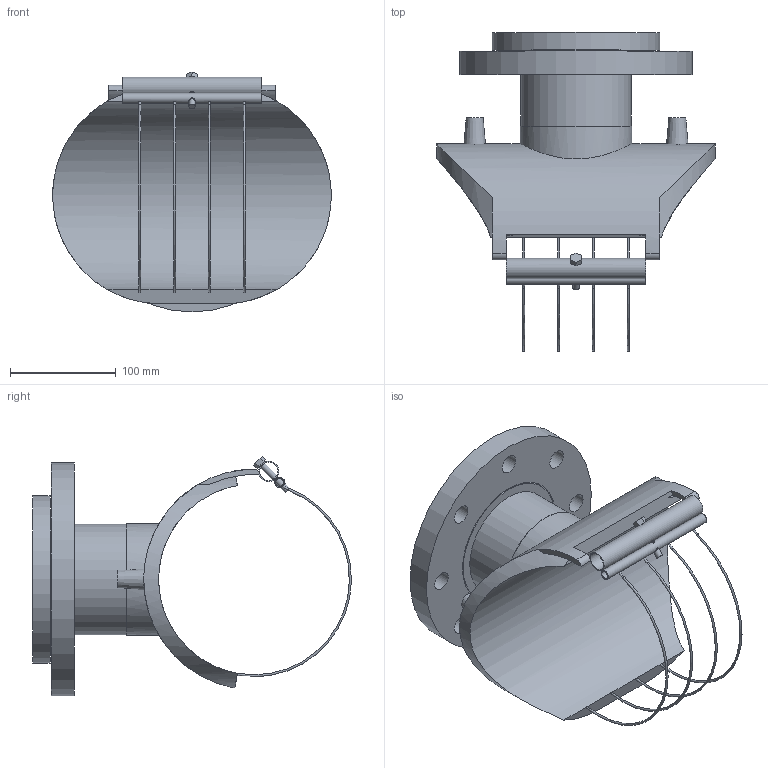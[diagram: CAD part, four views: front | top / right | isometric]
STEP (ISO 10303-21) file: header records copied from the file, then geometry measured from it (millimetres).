
FILE_DESCRIPTION(/* description */ ('Plasson Flanged Branch Saddle 180x100'),/* implementation_level */ '2;1');
FILE_NAME(/* name */ 'C:\Dropbox\99-16-3568-Processing\ElectroFusion Fittings\4959X4\stp\4959X4180100T.stp',/* time_stamp */ '2022-04-28T11:37:21+03:00',/* author */ ('KIM'),/* organization */ (''),/* preprocessor_version */ 'ST-DEVELOPER v17.2',/* originating_system */ 'Autodesk Inventor 2019',/* authorisation */ '');
FILE_SCHEMA (('AUTOMOTIVE_DESIGN { 1 0 10303 214 3 1 1 }'));
Length unit declared in the file: millimetre
Products named in the file (1): 4959X4180100T
Bounding box: 263 x 300.99 x 226.44 mm (x, y, z)
Volume: 1922336.3 mm3; surface area: 344234.5 mm2
Topology: 2 solids, 2 shells, 79 faces, 243 edges, 168 vertices
Faces by surface type: cylinder 40, plane 29, torus 8, cone 2
Full cylindrical faces by diameter (mm): 6 x3, 7.6 x1, 8 x1, 16 x1, 17.2 x1, 18 x8, 87 x1, 104.4 x1, 105.4 x1, 121.8 x1, 123.8 x1, 158 x1, 220 x1
Entity records: 3730 total; most frequent: CARTESIAN_POINT 1384, ORIENTED_EDGE 490, DIRECTION 481, EDGE_CURVE 245, AXIS2_PLACEMENT_3D 204, VERTEX_POINT 168, CIRCLE 120, EDGE_LOOP 117
